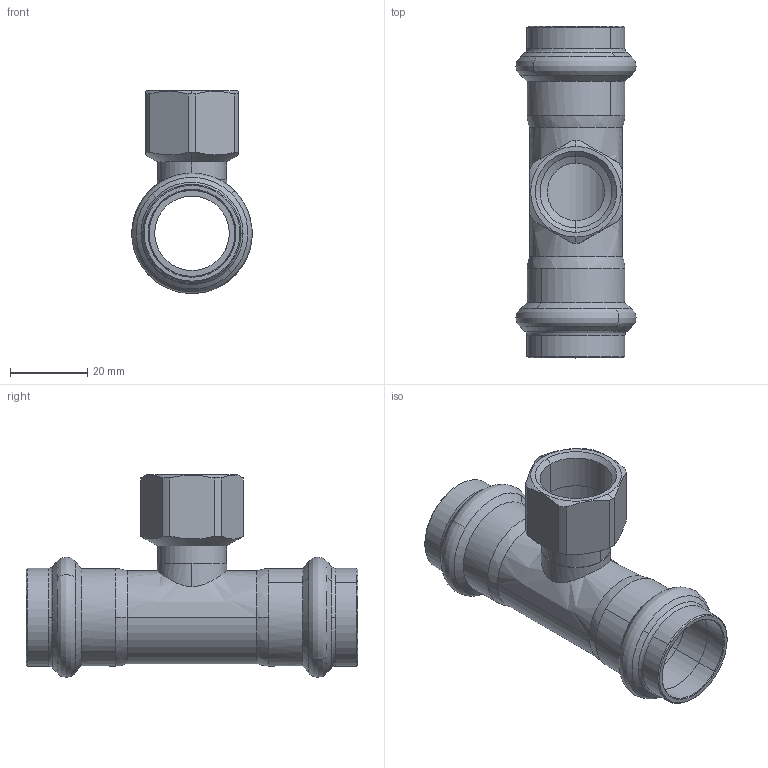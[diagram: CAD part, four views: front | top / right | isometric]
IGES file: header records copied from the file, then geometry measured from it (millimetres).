
Start section: Elysium IGES Interface
Global section: file name: C:\Users\Wallenburg\Desktop\3d modellen sudo\S-Pr VP\SP6130GV\6130GVW221222.igs; native system: CoCreate Modeling 17.00A  17-Jun-2010; preprocessor: CoCreate IGES_3D V2.2; author: Unknown; organization: Unknown; date: 20130117.155655; units: millimetre
Bounding box: 31.19 x 86.01 x 52.59 mm (x, y, z)
Volume: 16177.7 mm3; surface area: 17245.1 mm2
Topology: 1 solids, 1 shells, 117 faces, 293 edges, 183 vertices
Faces by surface type: bspline 117
